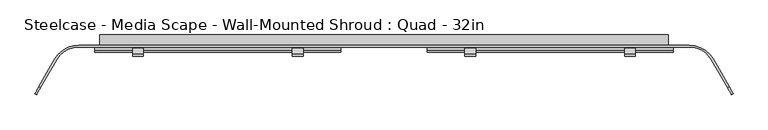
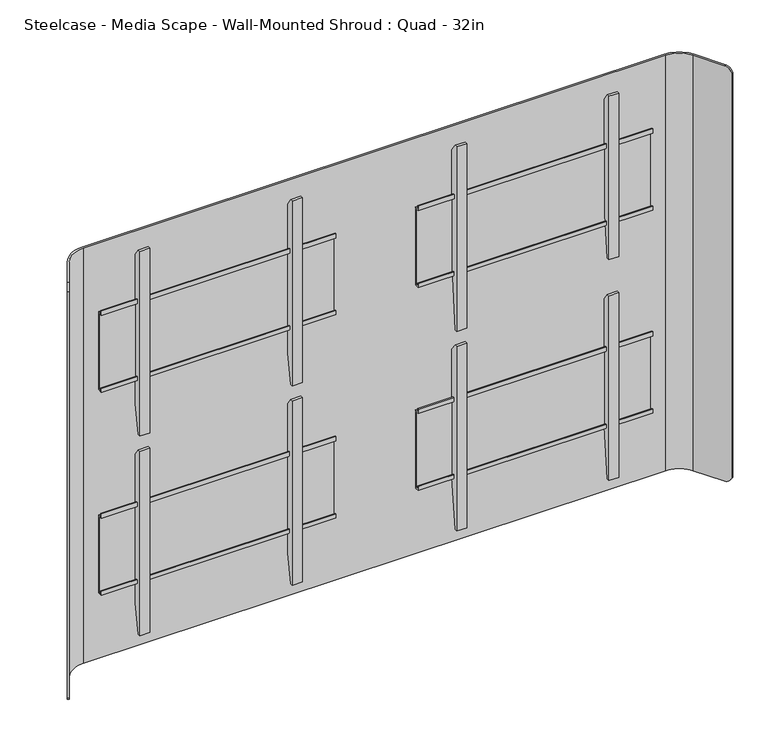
"""IFC4 building model written with IfcOpenShell, lengths in millimetres: furniture geometry, Steelcase - Media Scape - Wall-Mounted Shroud : Quad - 32in."""

from ifc_helpers import new_model, si_unit, frame, origin, place, context, project, spatial, polyline, circle_curve, outline, extrude, source, transform, mapped, element, save
from ifc_brep_helpers import plane_surface, cylinder_surface, revolved_surface, advanced_brep


def steelcase_media_scape_wall_mounted_shroud_quad_32in_d3d1e193(model_context):
    return source(origin(), model_context, "Body", "SolidModel", [
        extrude(outline(polyline([(-32.6531824, 1366.4960207), (-32.6531824, 1014.7806853), (-46.5069553, 878.7129758), (-53.3399828, 878.7129758), (-53.3399828, 1386.713), (-46.5596063, 1386.713), (-32.6531824, 1366.4960207)])), frame((596.9002868, 0.0, 0.0), z_axis=(1.0, 0.0, 0.0), x_axis=(0.0, 1.0, 0.0)), (0.0, 0.0, 1.0), 26.1592872),
        extrude(outline(polyline([(-32.6531824, 1366.4960207), (-32.6531824, 1014.6814666), (-46.4968533, 878.7129758), (-53.3399828, 878.7129758), (-53.3399828, 1386.713), (-46.5596063, 1386.713), (-32.6531824, 1366.4960207)])), frame((200.662426, 0.0, 0.0), z_axis=(1.0, 0.0, 0.0), x_axis=(0.0, 1.0, 0.0)), (0.0, 0.0, 1.0), 26.1592872),
        extrude(outline(polyline([(-32.6531824, 1366.5753957), (-32.6531824, 956.3408416), (-46.5049349, 878.7129758), (-53.3399828, 878.7129758), (-53.3399828, 1386.713), (-46.5050076, 1386.713), (-32.6531824, 1366.5753957)])), frame((-226.8217132, 0.0, 0.0), z_axis=(1.0, 0.0, 0.0), x_axis=(0.0, 1.0, 0.0)), (0.0, 0.0, 1.0), 26.1592872),
        extrude(outline(polyline([(-32.6531824, 1366.5753957), (-32.6531824, 956.3408416), (-46.5049349, 878.7129758), (-53.3399828, 878.7129758), (-53.3399828, 1386.713), (-46.5050076, 1386.713), (-32.6531824, 1366.5753957)])), frame((-623.059574, 0.0, 0.0), z_axis=(1.0, 0.0, 0.0), x_axis=(0.0, 1.0, 0.0)), (0.0, 0.0, 1.0), 26.1592872),
        extrude(outline(polyline([(-42.4942785, 1227.963), (-42.4942785, 1239.8754512), (-39.8272175, 1239.8754512), (-39.8272175, 1230.5372973), (-29.9720009, 1230.5372973), (-29.9720009, 1016.2849274), (-42.3164551, 1016.2849274), (-42.3164551, 1027.2267789), (-39.649394, 1027.2267789), (-39.649394, 1018.9436302), (-32.6531824, 1018.9436302), (-32.6531824, 1227.963), (-42.4942785, 1227.963)])), frame((107.061, 0.0, 0.0), z_axis=(1.0, 0.0, 0.0), x_axis=(0.0, 1.0, 0.0)), (0.0, 0.0, 1.0), 609.6),
        extrude(outline(polyline([(-42.4942785, 1227.870309), (-42.4942785, 1239.8754512), (-39.8272175, 1239.8754512), (-39.8272175, 1230.5372973), (-29.9720009, 1230.5372973), (-29.9720009, 1016.2849274), (-42.3164551, 1016.2849274), (-42.3164551, 1027.1340878), (-39.649394, 1027.1340878), (-39.649394, 1018.9436302), (-32.6531824, 1018.9436302), (-32.6531824, 1227.870309), (-42.4942785, 1227.870309)])), frame((-716.661, 0.0, 0.0), z_axis=(1.0, 0.0, 0.0), x_axis=(0.0, 1.0, 0.0)), (0.0, 0.0, 1.0), 609.6),
        extrude(outline(polyline([(-42.4942785, 1786.6306215), (-42.4942785, 1798.62487), (-39.8272175, 1798.62487), (-39.8272175, 1789.2777661), (-29.9720009, 1789.2777661), (-29.9720009, 1574.9525488), (-42.3164551, 1574.9525488), (-42.3164551, 1585.8944003), (-39.649394, 1585.8944003), (-39.649394, 1577.6173571), (-32.6531824, 1577.6173571), (-32.6531824, 1786.6306215), (-42.4942785, 1786.6306215)])), frame((107.061, 0.0, 0.0), z_axis=(1.0, 0.0, 0.0), x_axis=(0.0, 1.0, 0.0)), (0.0, 0.0, 1.0), 609.6),
        extrude(outline(polyline([(-32.6531824, 1915.8980449), (-32.6531824, 1622.6027095), (-46.5049349, 1486.5548437), (-53.3399828, 1486.5548437), (-53.3399828, 1936.1150242), (-46.5596063, 1936.1150242), (-32.6531824, 1915.8980449)])), frame((596.9002868, 0.0, 0.0), z_axis=(1.0, 0.0, 0.0), x_axis=(0.0, 1.0, 0.0)), (0.0, 0.0, 1.0), 26.1592872),
        extrude(outline(polyline([(-32.6531824, 1915.8980449), (-32.6531824, 1622.5034908), (-46.4968533, 1428.115), (-53.3399828, 1428.115), (-53.3399828, 1936.1150242), (-46.5596063, 1936.1150242), (-32.6531824, 1915.8980449)])), frame((200.662426, 0.0, 0.0), z_axis=(1.0, 0.0, 0.0), x_axis=(0.0, 1.0, 0.0)), (0.0, 0.0, 1.0), 26.1592872),
        extrude(outline(polyline([(-42.4942785, 1786.6107777), (-42.4942785, 1798.62487), (-39.8272175, 1798.62487), (-39.8272175, 1789.2777661), (-29.9720009, 1789.2777661), (-29.9720009, 1574.9525488), (-42.3164551, 1574.9525488), (-42.3164551, 1585.8745566), (-39.649394, 1585.8745566), (-39.649394, 1577.6173571), (-32.6531824, 1577.6173571), (-32.6531824, 1786.6107777), (-42.4942785, 1786.6107777)])), frame((-716.661, 0.0, 0.0), z_axis=(1.0, 0.0, 0.0), x_axis=(0.0, 1.0, 0.0)), (0.0, 0.0, 1.0), 609.6),
        extrude(outline(polyline([(-32.6531824, 1915.9774199), (-32.6531824, 1505.7428658), (-46.5049349, 1428.115), (-53.3399828, 1428.115), (-53.3399828, 1936.1150242), (-46.5050076, 1936.1150242), (-32.6531824, 1915.9774199)])), frame((-226.8217132, 0.0, 0.0), z_axis=(1.0, 0.0, 0.0), x_axis=(0.0, 1.0, 0.0)), (0.0, 0.0, 1.0), 26.1592872),
        extrude(outline(polyline([(-32.6531824, 1915.9774199), (-32.6531824, 1505.7428658), (-46.5049349, 1428.115), (-53.3399828, 1428.115), (-53.3399828, 1936.1150242), (-46.5050076, 1936.1150242), (-32.6531824, 1915.9774199)])), frame((-623.059574, 0.0, 0.0), z_axis=(1.0, 0.0, 0.0), x_axis=(0.0, 1.0, 0.0)), (0.0, 0.0, 1.0), 26.1592872),
        advanced_brep(
        [(-811.6586135, -61.722, 1978.914), (-756.666002, -29.9720009, 1978.914), (756.666, -29.9720009, 1978.914), (811.6586135, -61.722, 1978.914), (851.779586, -131.2135628, 1978.914), (855.7390541, -128.9275628, 1978.914), (815.6180817, -59.436, 1978.914), (756.666002, -25.4, 1978.914), (-756.666, -25.4, 1978.914), (-815.6180817, -59.436, 1978.914), (-855.7421659, -128.9329524, 1978.914), (-851.7826977, -131.2189524, 1978.914), (-815.6180817, -59.436, 835.914), (-756.666002, -25.4, 835.914), (756.666, -25.4, 835.914), (815.6180817, -59.436, 835.914), (855.7906629, -129.0169518, 835.914), (851.8311948, -131.3029518, 835.914), (811.6586135, -61.722, 835.914), (756.666002, -29.9720009, 835.914), (-756.666, -29.9720009, 835.914), (-811.6586135, -61.722, 835.914), (-851.8454014, -131.3275584, 835.914), (-855.8048695, -129.0415584, 835.914), (-865.3090632, -145.5033047, 849.5242766), (-865.3090632, -145.5033047, 1964.9227735), (-861.3495951, -147.7893047, 1964.9227735), (-861.3495951, -147.7893047, 849.5242766), (861.3270866, -147.7503189, 849.4756893), (861.3270866, -147.7503189, 1965.0433849), (865.2865547, -145.4643189, 1965.0433849), (865.2865547, -145.4643189, 849.4756893)],
        [
            (0, 1, circle_curve(frame((-756.666002, -93.4719991, 1978.914), z_axis=(0.0, 0.0, -1.0), x_axis=(0.0, 1.0, 0.0)), 63.4999981)),
            (1, 2),
            (2, 3, circle_curve(frame((756.666002, -93.4719991, 1978.914), z_axis=(0.0, 0.0, -1.0), x_axis=(0.0, 1.0, 0.0)), 63.4999981)),
            (3, 4),
            (4, 5),
            (5, 6),
            (6, 7, circle_curve(frame((756.6660004, -93.472, 1978.914), z_axis=(0.0, 0.0, 1.0), x_axis=(0.0, 1.0, 0.0)), 68.072)),
            (7, 8),
            (8, 9, circle_curve(frame((-756.6660004, -93.472, 1978.914), z_axis=(0.0, 0.0, 1.0), x_axis=(0.0, 1.0, 0.0)), 68.072)),
            (9, 10),
            (10, 11),
            (11, 0),
            (12, 13, circle_curve(frame((-756.6660004, -93.472, 835.914), z_axis=(0.0, 0.0, -1.0), x_axis=(0.0, 1.0, 0.0)), 68.072)),
            (13, 14),
            (14, 15, circle_curve(frame((756.6660004, -93.472, 835.914), z_axis=(0.0, 0.0, -1.0), x_axis=(0.0, 1.0, 0.0)), 68.072)),
            (15, 16),
            (16, 17),
            (17, 18),
            (18, 19, circle_curve(frame((756.666002, -93.4719991, 835.914), z_axis=(0.0, 0.0, 1.0), x_axis=(0.0, 1.0, 0.0)), 63.4999981)),
            (19, 20),
            (20, 21, circle_curve(frame((-756.666002, -93.4719991, 835.914), z_axis=(0.0, 0.0, 1.0), x_axis=(0.0, 1.0, 0.0)), 63.4999981)),
            (21, 22),
            (22, 23),
            (23, 12),
            (0, 21),
            (20, 1),
            (8, 13),
            (12, 9),
            (23, 24, circle_curve(frame((-855.8048695, -129.0415584, 855.9928872), z_axis=(-0.8660254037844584, 0.49999999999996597, 0.0), x_axis=(-0.49999999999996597, -0.8660254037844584, 0.0)), 20.0788872)),
            (24, 25),
            (25, 10, circle_curve(frame((-855.7421659, -128.9329524, 1958.8351128), z_axis=(-0.8660254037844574, 0.4999999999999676, 0.0), x_axis=(-0.4999999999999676, -0.8660254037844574, 0.0)), 20.0788872)),
            (26, 25),
            (24, 27),
            (27, 26),
            (11, 26, circle_curve(frame((-851.7826977, -131.2189524, 1958.8351128), z_axis=(0.8660254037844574, -0.4999999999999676, 0.0), x_axis=(-0.4999999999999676, -0.8660254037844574, 0.0)), 20.0788872)),
            (27, 22, circle_curve(frame((-851.8454014, -131.3275584, 855.9928872), z_axis=(0.8660254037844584, -0.49999999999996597, 0.0), x_axis=(-0.49999999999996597, -0.8660254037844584, 0.0)), 20.0788872)),
            (7, 14),
            (19, 2),
            (3, 18),
            (17, 28, circle_curve(frame((851.8311948, -131.3029518, 855.9928872), z_axis=(-0.8660254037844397, -0.49999999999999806, 0.0), x_axis=(0.49999999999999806, -0.8660254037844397, 0.0)), 20.0788872)),
            (28, 29),
            (29, 4, circle_curve(frame((851.779586, -131.2135628, 1958.8351128), z_axis=(-0.8660254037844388, -0.4999999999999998, 0.0), x_axis=(0.4999999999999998, -0.8660254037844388, 0.0)), 20.0788872)),
            (30, 29),
            (28, 31),
            (31, 30),
            (15, 6),
            (5, 30, circle_curve(frame((855.7390541, -128.9275628, 1958.8351128), z_axis=(0.8660254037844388, 0.4999999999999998, 0.0), x_axis=(0.4999999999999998, -0.8660254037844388, 0.0)), 20.0788872)),
            (31, 16, circle_curve(frame((855.7906629, -129.0169518, 855.9928872), z_axis=(0.8660254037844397, 0.49999999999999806, 0.0), x_axis=(0.49999999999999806, -0.8660254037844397, 0.0)), 20.0788872)),
        ],
        [
            plane_surface(frame((-756.666002, -29.9720009, 1978.914), z_axis=(0.0, 0.0, 1.0), x_axis=(1.0, 0.0, 0.0))),
            plane_surface(frame((-756.666002, -29.9720009, 835.914), z_axis=(0.0, 0.0, -1.0), x_axis=(-1.0, 0.0, 0.0))),
            revolved_surface(polyline([(-756.666002, -29.972001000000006, 835.914), (-756.666002, -29.972001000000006, 1978.914)]), (-756.666002, -93.4719991, 835.914), (0.0, 0.0, -1.0)),
            cylinder_surface(frame((-756.6660004, -93.472, 835.914), z_axis=(0.0, 0.0, 1.0), x_axis=(0.0, 1.0, 0.0)), 68.072),
            plane_surface(frame((-815.6180817, -59.436, 1978.914), z_axis=(-0.8660254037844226, 0.5000000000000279, 0.0), x_axis=(0.0, 0.0, -1.0))),
            plane_surface(frame((-865.3090632, -145.5033047, 1978.914), z_axis=(-0.5000000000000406, -0.8660254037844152, 0.0), x_axis=(0.0, 0.0, -1.0))),
            plane_surface(frame((-861.3495951, -147.7893047, 1978.914), z_axis=(0.8660254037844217, -0.5000000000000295, 0.0), x_axis=(0.0, 0.0, -1.0))),
            plane_surface(frame((756.666, -25.4, 1978.914), z_axis=(0.0, 1.0, 0.0), x_axis=(0.0, 0.0, -1.0))),
            plane_surface(frame((-756.666, -29.9720009, 1978.914), z_axis=(0.0, -1.0, 0.0), x_axis=(0.0, 0.0, -1.0))),
            plane_surface(frame((811.6586135, -61.722, 1978.914), z_axis=(-0.8660254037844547, -0.4999999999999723, 0.0), x_axis=(0.0, 0.0, -1.0))),
            plane_surface(frame((861.3270866, -147.7503189, 1978.914), z_axis=(0.4999999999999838, -0.866025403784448, 0.0), x_axis=(0.0, 0.0, -1.0))),
            plane_surface(frame((865.2865547, -145.4643189, 1978.914), z_axis=(0.8660254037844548, 0.49999999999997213, 0.0), x_axis=(0.0, 0.0, -1.0))),
            cylinder_surface(frame((756.6660004, -93.472, 835.914), z_axis=(0.0, 0.0, 1.0), x_axis=(0.0, 1.0, 0.0)), 68.072),
            revolved_surface(polyline([(756.666002, -29.972001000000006, 835.914), (756.666002, -29.972001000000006, 1978.914)]), (756.666002, -93.4719991, 835.914), (0.0, 0.0, -1.0)),
            cylinder_surface(frame((-851.7826977, -131.2189524, 1958.8351128), z_axis=(0.8660254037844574, -0.4999999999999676, 0.0), x_axis=(-0.4999999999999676, -0.8660254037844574, 0.0)), 20.0788872),
            cylinder_surface(frame((-851.8454014, -131.3275584, 855.9928872), z_axis=(0.8660254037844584, -0.49999999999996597, 0.0), x_axis=(-0.49999999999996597, -0.8660254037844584, 0.0)), 20.0788872),
            cylinder_surface(frame((866.8864297, -122.4916225, 1958.8351128), z_axis=(0.8660254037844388, 0.4999999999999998, 0.0), x_axis=(0.4999999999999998, -0.8660254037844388, 0.0)), 20.0788872),
            cylinder_surface(frame((864.0789695, -124.2316958, 855.9928872), z_axis=(0.8660254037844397, 0.49999999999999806, 0.0), x_axis=(0.49999999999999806, -0.8660254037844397, 0.0)), 20.0788872),
        ],
        [
            (0, [[1, 2, 3, 4, 5, 6, 7, 8, 9, 10, 11, 12]]),
            (1, [[13, 14, 15, 16, 17, 18, 19, 20, 21, 22, 23, 24]]),
            (2, [[-1, 25, -21, 26]]),
            (3, [[-9, 27, -13, 28]]),
            (4, [[-28, -24, 29, 30, 31, -10]]),
            (5, [[32, -30, 33, 34]]),
            (6, [[-25, -12, 35, -34, 36, -22]]),
            (7, [[-8, 37, -14, -27]]),
            (8, [[-2, -26, -20, 38]]),
            (9, [[39, -18, 40, 41, 42, -4]]),
            (10, [[43, -41, 44, 45]]),
            (11, [[46, -6, 47, -45, 48, -16]]),
            (12, [[-7, -46, -15, -37]]),
            (13, [[-3, -38, -19, -39]]),
            (14, [[-11, -31, -32, -35]]),
            (15, [[-23, -36, -33, -29]]),
            (16, [[-5, -42, -43, -47]]),
            (17, [[-17, -48, -44, -40]]),
        ],
    ),
        extrude(outline(polyline([(912.1648167, 641.3499879), (912.1648167, 704.85), (1902.714, 704.85), (1902.714, -704.85), (912.1648167, -704.85), (912.1648167, -642.3433465), (1839.2139516, -642.3433465), (1839.2139516, 641.3499879), (912.1648167, 641.3499879)])), frame((0.0, -25.4, 0.0), z_axis=(0.0, 1.0, 0.0), x_axis=(0.0, 0.0, 1.0)), (0.0, 0.0, 1.0), 25.4),
    ])


if __name__ == "__main__":
    model = new_model("IFC4")
    model_context = context("Model", 3, world=origin())
    ifc_project = project(units=[si_unit("LENGTHUNIT", "METRE", prefix="MILLI")], contexts=[model_context])
    site = spatial("IfcSite", under=ifc_project)
    building = spatial("IfcBuilding", under=site)
    placement = place(None, origin())
    steelcase_media_scape_wall_mounted_shroud_quad_32in_shape = steelcase_media_scape_wall_mounted_shroud_quad_32in_d3d1e193(model_context)
    element("IfcFurniture", 1, ObjectType="Steelcase - Media Scape - Wall-Mounted Shroud : Quad - 32in", at=placement, inside=building, context=model_context, shape_type="MappedRepresentation", body=[
        mapped(steelcase_media_scape_wall_mounted_shroud_quad_32in_shape, transform((0.0, 0.0, 0.0), x_axis=(1.0, 0.0, 0.0), y_axis=(0.0, 1.0, 0.0), z_axis=(0.0, 0.0, 1.0))),
    ])
    save(model, "model.ifc")
